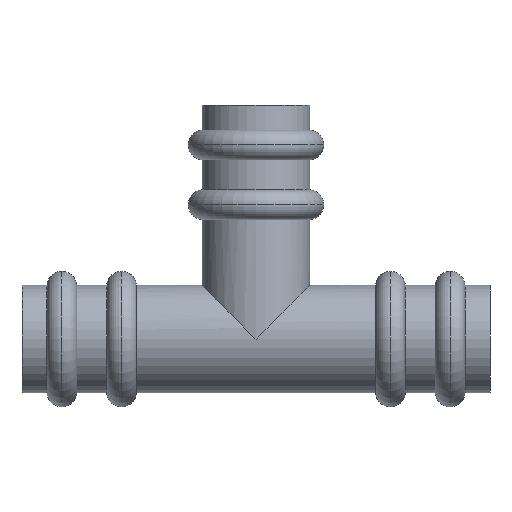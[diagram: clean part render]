
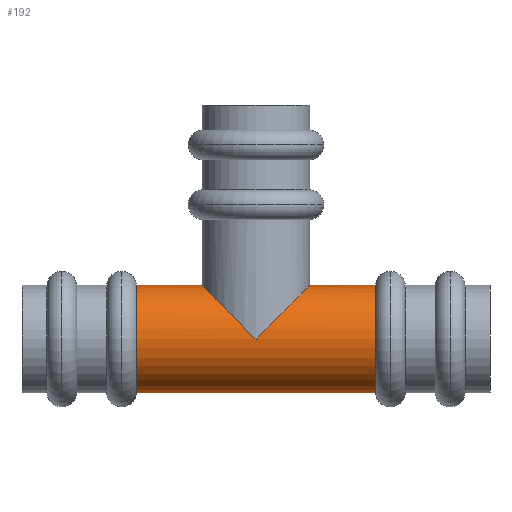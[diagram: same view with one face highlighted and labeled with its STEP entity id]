
A CAD part, front view. The second image highlights one B-rep face of the part: STEP entity #192.
In plain terms, the highlighted cylindrical face has radius 10.8 mm (diameter 21.6 mm), a partial arc.
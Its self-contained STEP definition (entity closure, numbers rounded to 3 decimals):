
#192=ADVANCED_FACE('',(#472),#473,.T.);
#472=FACE_OUTER_BOUND('',#864,.T.);
#473=CYLINDRICAL_SURFACE('',#865,10.8);
#864=EDGE_LOOP('',(#1370,#1371,#1372,#1373,#1374,#1375,#1376));
#865=AXIS2_PLACEMENT_3D('',#1377,#1378,#1379);
#1370=ORIENTED_EDGE('',*,*,#2243,.F.);
#1371=ORIENTED_EDGE('',*,*,#2244,.F.);
#1372=ORIENTED_EDGE('',*,*,#2245,.F.);
#1373=ORIENTED_EDGE('',*,*,#2246,.T.);
#1374=ORIENTED_EDGE('',*,*,#2247,.T.);
#1375=ORIENTED_EDGE('',*,*,#2248,.F.);
#1376=ORIENTED_EDGE('',*,*,#2249,.F.);
#1377=CARTESIAN_POINT('',(39.5,0.0,0.));
#1378=DIRECTION('',(-1.0,0.0,0.0));
#1379=DIRECTION('',(0.0,0.0,-1.0));
#2243=EDGE_CURVE('',#2657,#2658,#2659,.T.);
#2244=EDGE_CURVE('',#2660,#2657,#2661,.T.);
#2245=EDGE_CURVE('',#2662,#2660,#2663,.T.);
#2246=EDGE_CURVE('',#2662,#2664,#2665,.T.);
#2247=EDGE_CURVE('',#2664,#2666,#2667,.T.);
#2248=EDGE_CURVE('',#2668,#2666,#2669,.T.);
#2249=EDGE_CURVE('',#2658,#2668,#2670,.T.);
#2657=VERTEX_POINT('',#3175);
#2658=VERTEX_POINT('',#3176);
#2659=LINE('',#3177,#3178);
#2660=VERTEX_POINT('',#3179);
#2661=CIRCLE('',#3180,10.8);
#2662=VERTEX_POINT('',#3181);
#2663=LINE('',#3182,#3183);
#2664=VERTEX_POINT('',#3184);
#2665=ELLIPSE('',#3185,15.274,10.8);
#2666=VERTEX_POINT('',#3186);
#2667=ELLIPSE('',#3187,15.274,10.8);
#2668=VERTEX_POINT('',#3188);
#2669=LINE('',#3189,#3190);
#2670=CIRCLE('',#3191,10.8);
#3175=CARTESIAN_POINT('',(71.,0.,-10.8));
#3176=CARTESIAN_POINT('',(23.,0.,-10.8));
#3177=CARTESIAN_POINT('',(39.5,0.,-10.8));
#3178=VECTOR('',#3810,1.0);
#3179=CARTESIAN_POINT('',(71.,0.,10.8));
#3180=AXIS2_PLACEMENT_3D('',#3811,#3812,#3813);
#3181=CARTESIAN_POINT('',(57.8,0.,10.8));
#3182=CARTESIAN_POINT('',(39.5,0.,10.8));
#3183=VECTOR('',#3814,1.0);
#3184=CARTESIAN_POINT('',(47.,-10.8,0.0));
#3185=AXIS2_PLACEMENT_3D('',#3815,#3816,#3817);
#3186=CARTESIAN_POINT('',(36.2,0.,10.8));
#3187=AXIS2_PLACEMENT_3D('',#3818,#3819,#3820);
#3188=CARTESIAN_POINT('',(23.,0.,10.8));
#3189=CARTESIAN_POINT('',(39.5,0.,10.8));
#3190=VECTOR('',#3821,1.0);
#3191=AXIS2_PLACEMENT_3D('',#3822,#3823,#3824);
#3810=DIRECTION('',(-1.0,0.0,0.0));
#3811=CARTESIAN_POINT('',(71.,0.0,0.));
#3812=DIRECTION('',(1.0,0.0,-0.0));
#3813=DIRECTION('',(0.0,0.0,1.0));
#3814=DIRECTION('',(1.0,-0.0,-0.0));
#3815=CARTESIAN_POINT('',(47.,0.0,0.));
#3816=DIRECTION('',(0.707,0.0,-0.707));
#3817=DIRECTION('',(0.707,0.0,0.707));
#3818=CARTESIAN_POINT('',(47.,0.0,0.));
#3819=DIRECTION('',(-0.707,-0.0,-0.707));
#3820=DIRECTION('',(0.707,0.0,-0.707));
#3821=DIRECTION('',(1.0,-0.0,-0.0));
#3822=CARTESIAN_POINT('',(23.,0.0,0.));
#3823=DIRECTION('',(-1.0,0.0,0.));
#3824=DIRECTION('',(0.,0.0,-1.0));
